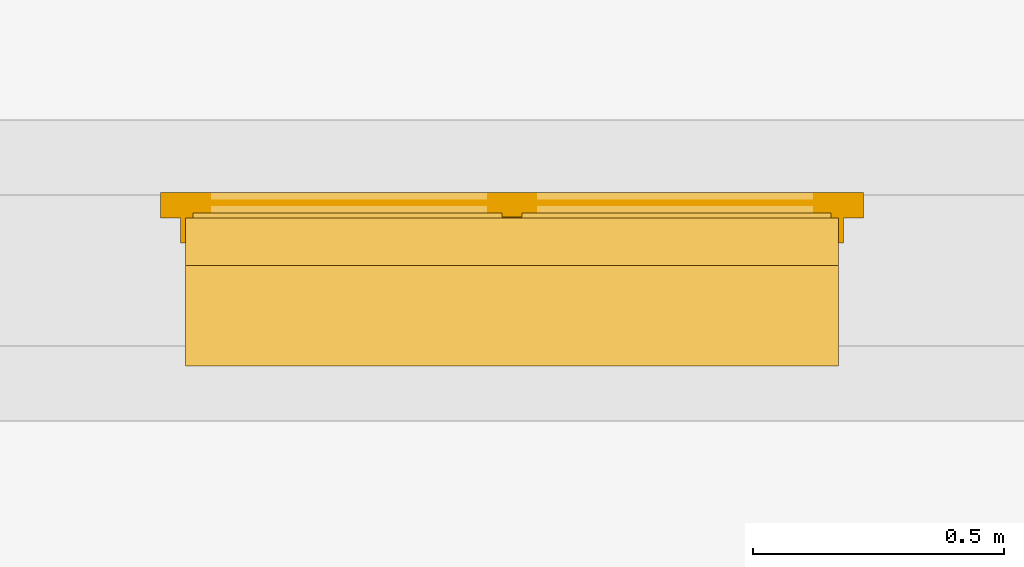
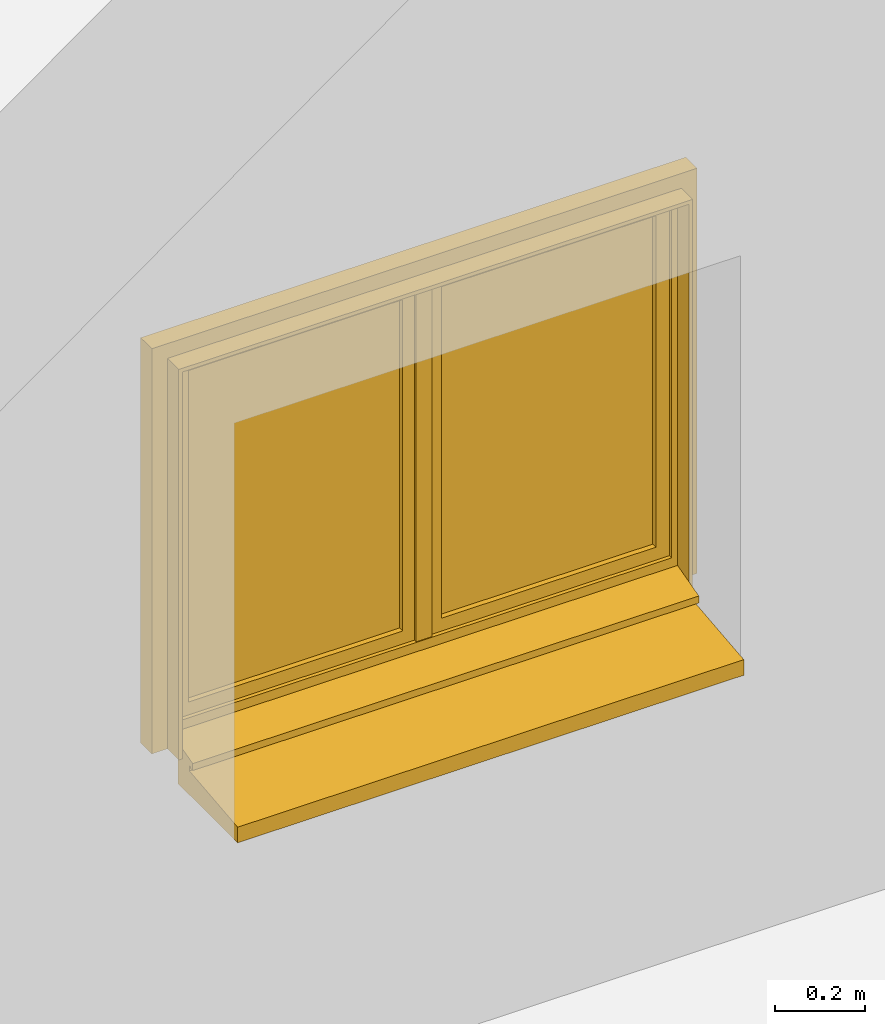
# One storey, part 14 of 20: 1 window.
"""IFC2X3 building model written with IfcOpenShell, lengths in metres."""

from ifc_helpers import new_model, entity, si_unit, converted_unit, derived_unit, direction, frame, origin, place, context, subcontext, project, spatial, faceted_brep, source, transform, mapped, material, material_list, type_object, type_shapes, element, save


model = new_model("IFC2X3")

# Units and contexts
model_context = context("Model", 3, precision=1e-05, world=origin(), true_north=direction((6.12303176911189e-17, 1.0)))
body_context = subcontext(model_context, "Body", "Model", "MODEL_VIEW")
ifc_project = project(units=[si_unit("LENGTHUNIT", "METRE"), si_unit("AREAUNIT", "SQUARE_METRE"), si_unit("VOLUMEUNIT", "CUBIC_METRE"), converted_unit("PLANEANGLEUNIT", "DEGREE", entity("IfcRatioMeasure", 0.0174532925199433), si_unit("PLANEANGLEUNIT", "RADIAN"), dimensions=[0, 0, 0, 0, 0, 0, 0]), si_unit("MASSUNIT", "GRAM", prefix="KILO"), derived_unit("MASSDENSITYUNIT", [(si_unit("MASSUNIT", "GRAM", prefix="KILO"), 1), (si_unit("LENGTHUNIT", "METRE"), -3)]), derived_unit("MOMENTOFINERTIAUNIT", [(si_unit("LENGTHUNIT", "METRE"), 4)]), si_unit("TIMEUNIT", "SECOND"), si_unit("FREQUENCYUNIT", "HERTZ"), si_unit("THERMODYNAMICTEMPERATUREUNIT", "DEGREE_CELSIUS"), derived_unit("THERMALTRANSMITTANCEUNIT", [(si_unit("MASSUNIT", "GRAM", prefix="KILO"), 1), (si_unit("THERMODYNAMICTEMPERATUREUNIT", "KELVIN"), -1), (si_unit("TIMEUNIT", "SECOND"), -3)]), derived_unit("VOLUMETRICFLOWRATEUNIT", [(si_unit("LENGTHUNIT", "METRE"), 3), (si_unit("TIMEUNIT", "SECOND"), -1)]), si_unit("ELECTRICCURRENTUNIT", "AMPERE"), si_unit("ELECTRICVOLTAGEUNIT", "VOLT"), si_unit("POWERUNIT", "WATT"), si_unit("FORCEUNIT", "NEWTON", prefix="KILO"), si_unit("ILLUMINANCEUNIT", "LUX"), si_unit("LUMINOUSFLUXUNIT", "LUMEN"), si_unit("LUMINOUSINTENSITYUNIT", "CANDELA"), derived_unit("USERDEFINED", [(si_unit("MASSUNIT", "GRAM", prefix="KILO"), -1), (si_unit("LENGTHUNIT", "METRE"), -2), (si_unit("TIMEUNIT", "SECOND"), 3), (si_unit("LUMINOUSFLUXUNIT", "LUMEN"), 1)]), derived_unit("LINEARVELOCITYUNIT", [(si_unit("LENGTHUNIT", "METRE"), 1), (si_unit("TIMEUNIT", "SECOND"), -1)]), si_unit("PRESSUREUNIT", "PASCAL"), derived_unit("USERDEFINED", [(si_unit("LENGTHUNIT", "METRE"), -2), (si_unit("MASSUNIT", "GRAM", prefix="KILO"), 1), (si_unit("TIMEUNIT", "SECOND"), -2)]), derived_unit("LINEARFORCEUNIT", [(si_unit("MASSUNIT", "GRAM", prefix="KILO"), 1), (si_unit("LENGTHUNIT", "METRE"), 1), (si_unit("TIMEUNIT", "SECOND"), -2), (si_unit("LENGTHUNIT", "METRE"), -1)]), derived_unit("PLANARFORCEUNIT", [(si_unit("MASSUNIT", "GRAM", prefix="KILO"), 1), (si_unit("LENGTHUNIT", "METRE"), 1), (si_unit("TIMEUNIT", "SECOND"), -2), (si_unit("LENGTHUNIT", "METRE"), -2)])], contexts=[model_context])

# Site, building, storey
site_placement = place(None, origin())
site = spatial("IfcSite", under=ifc_project, at=site_placement, Name="Surface", CompositionType="ELEMENT")
building_placement = place(site_placement, origin())
building = spatial("IfcBuilding", under=site, at=building_placement, CompositionType="ELEMENT")
storey_placement = place(building_placement, origin())
storey = spatial("IfcBuildingStorey", under=building, at=storey_placement, Name="Niveau rdc", CompositionType="ELEMENT", Elevation=-1.94916083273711e-14)

# Window
ifc_material_1 = material(Name="Fenêtre - Poignée")
ifc_material_2 = material(Name="Fenêtre - Appui")
ifc_material_3 = material(Name="Fenêtre - Cadre(1)")
ifc_material_4 = material(Name="Fenêtre - Vitrage")
ifc_material_5 = material(Name="Fenêtre - Cadre")
ifc_material_list_1 = material_list([ifc_material_1, ifc_material_2, ifc_material_3, ifc_material_4, ifc_material_5])
ifc_material_6 = material(Name="Volets - Bois")
ifc_material_list_2 = material_list([ifc_material_6, ifc_material_3, ifc_material_2, ifc_material_5, ifc_material_4, ifc_material_1])
window_style = type_object("IfcWindowStyle", Name="2 Vantaux droits - Volets et petits bois:1.30m x 1.05m - Appui Béton", ConstructionType="NOTDEFINED", OperationType="DOUBLE_PANEL_VERTICAL", ParameterTakesPrecedence=False, Sizeable=False, material=ifc_material_list_2)
shared_shape = source(origin(), body_context, "Body", "Brep", [
    faceted_brep([(0.730646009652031, -0.67100000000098, 0.702033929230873), (0.732033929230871, -0.67100000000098, 0.700646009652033), (0.732033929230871, -0.67100000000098, 0.689332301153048), (0.730667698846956, -0.67100000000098, 0.687966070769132), (0.719332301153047, -0.67100000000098, 0.687966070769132), (0.717966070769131, -0.67100000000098, 0.689332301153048), (0.717966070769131, -0.67100000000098, 0.700646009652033), (0.719353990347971, -0.67100000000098, 0.702033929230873), (0.730646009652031, -0.683913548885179, 0.702033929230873), (0.732033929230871, -0.68333865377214, 0.700646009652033), (0.732033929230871, -0.69664600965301, 0.687338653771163), (0.732033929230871, -0.69664600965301, 0.600000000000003), (0.732033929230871, -0.685332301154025, 0.600000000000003), (0.732033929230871, -0.685332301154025, 0.682652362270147), (0.732033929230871, -0.678652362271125, 0.689332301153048), (0.730667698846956, -0.678086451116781, 0.687966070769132), (0.719332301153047, -0.678086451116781, 0.687966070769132), (0.717966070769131, -0.678652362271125, 0.689332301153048), (0.717966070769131, -0.685332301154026, 0.682652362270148), (0.717966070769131, -0.685332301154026, 0.600000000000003), (0.717966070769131, -0.69664600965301, 0.600000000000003), (0.717966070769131, -0.69664600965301, 0.687338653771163), (0.717966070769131, -0.68333865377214, 0.700646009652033), (0.719353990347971, -0.683913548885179, 0.702033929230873), (0.730646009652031, -0.69803392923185, 0.687913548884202), (0.730667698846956, -0.68396607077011, 0.682086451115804), (0.719332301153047, -0.68396607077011, 0.682086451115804), (0.719353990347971, -0.69803392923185, 0.687913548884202), (0.730646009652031, -0.69803392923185, 0.600000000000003), (0.719353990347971, -0.69803392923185, 0.600000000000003), (0.719332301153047, -0.68396607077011, 0.600000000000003), (0.730667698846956, -0.68396607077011, 0.600000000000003)], [[[0, 1, 2, 3, 4, 5, 6, 7]], [[1, 0, 8, 9]], [[2, 1, 9, 10, 11, 12, 13, 14]], [[3, 2, 14, 15]], [[4, 3, 15, 16]], [[5, 4, 16, 17]], [[6, 5, 17, 18, 19, 20, 21, 22]], [[7, 6, 22, 23]], [[0, 7, 23, 8]], [[9, 8, 24, 10]], [[15, 14, 13, 25]], [[16, 15, 25, 26]], [[17, 16, 26, 18]], [[23, 22, 21, 27]], [[8, 23, 27, 24]], [[28, 29, 20, 19, 30, 31, 12, 11]], [[10, 24, 28, 11]], [[25, 13, 12, 31]], [[26, 25, 31, 30]], [[18, 26, 30, 19]], [[27, 21, 20, 29]], [[24, 27, 29, 28]]]),
    faceted_brep([(0.732000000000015, -0.671000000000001, 0.72), (0.718, -0.671000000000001, 0.72), (0.713, -0.671000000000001, 0.715000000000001), (0.713, -0.671000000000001, 0.644999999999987), (0.717999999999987, -0.671000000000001, 0.639999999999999), (0.732000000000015, -0.671000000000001, 0.639999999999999), (0.737000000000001, -0.671000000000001, 0.644999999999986), (0.737000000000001, -0.671000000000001, 0.715000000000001), (0.732000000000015, -0.665000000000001, 0.72), (0.737000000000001, -0.665000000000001, 0.715000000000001), (0.737000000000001, -0.665000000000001, 0.644999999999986), (0.732000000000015, -0.665000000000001, 0.639999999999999), (0.717999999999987, -0.665000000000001, 0.639999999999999), (0.713, -0.665000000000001, 0.644999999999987), (0.713, -0.665000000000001, 0.715000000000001), (0.718, -0.665000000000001, 0.72)], [[[0, 1, 2, 3, 4, 5, 6, 7]], [[8, 9, 10, 11, 12, 13, 14, 15]], [[1, 0, 8, 15]], [[2, 1, 15, 14]], [[3, 2, 14, 13]], [[4, 3, 13, 12]], [[5, 4, 12, 11]], [[6, 5, 11, 10]], [[7, 6, 10, 9]], [[0, 7, 9, 8]]]),
    faceted_brep([(0.0499999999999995, -0.584999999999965, 0.0799999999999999), (0.0499999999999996, -0.534999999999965, 0.0799999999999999), (0.0499999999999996, -0.534999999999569, 0.0650000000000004), (0.05, -0.319999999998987, 0.0424025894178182), (0.05, -0.319999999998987, 0.0), (0.0499999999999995, -0.584999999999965, 0.0), (1.35, -0.584999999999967, 0.0799999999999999), (1.35, -0.584999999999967, 0.0), (1.35, -0.319999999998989, 0.0), (1.35, -0.319999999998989, 0.0424025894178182), (1.35, -0.534999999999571, 0.0650000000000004), (1.35, -0.534999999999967, 0.0799999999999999)], [[[0, 1, 2, 3, 4, 5]], [[6, 7, 8, 9, 10, 11]], [[1, 0, 6, 11]], [[2, 1, 11, 10]], [[3, 2, 10, 9]], [[4, 3, 9, 8]], [[5, 4, 8, 7]], [[0, 5, 7, 6]]]),
    faceted_brep([(0.699999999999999, -0.624999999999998, 1.13), (0.699999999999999, -0.66499999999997, 1.13), (0.699999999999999, -0.664999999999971, 0.13), (0.699999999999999, -0.624999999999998, 0.13), (0.0499999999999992, -0.664999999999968, 0.13), (0.0499999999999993, -0.624999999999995, 0.13), (0.0499999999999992, -0.664999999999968, 1.13), (0.0999999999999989, -0.664999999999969, 0.18), (0.0999999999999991, -0.664999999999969, 1.08), (0.649999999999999, -0.66499999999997, 1.08), (0.649999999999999, -0.66499999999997, 0.18), (0.0499999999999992, -0.624999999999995, 1.13), (0.649999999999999, -0.624999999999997, 0.18), (0.649999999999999, -0.624999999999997, 1.08), (0.0999999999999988, -0.624999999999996, 1.08), (0.0999999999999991, -0.624999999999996, 0.18)], [[[0, 1, 2, 3]], [[3, 2, 4, 5]], [[2, 1, 6, 4], [7, 8, 9, 10]], [[5, 4, 6, 11]], [[5, 11, 0, 3], [12, 13, 14, 15]], [[9, 13, 12, 10]], [[10, 12, 15, 7]], [[7, 15, 14, 8]], [[11, 6, 1, 0]], [[8, 14, 13, 9]]]),
    faceted_brep([(0.749999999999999, -0.639000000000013, 0.18), (0.749999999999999, -0.639000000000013, 1.08), (1.3, -0.639000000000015, 1.08), (1.3, -0.639000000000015, 0.18), (0.749999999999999, -0.651000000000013, 0.18), (0.749999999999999, -0.651000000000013, 1.08), (1.3, -0.651000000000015, 1.08), (1.3, -0.651000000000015, 0.18)], [[[0, 1, 2, 3]], [[1, 0, 4, 5]], [[3, 2, 6, 7]], [[0, 3, 7, 4]], [[2, 1, 5, 6]], [[4, 7, 6, 5]]]),
    faceted_brep([(0.65, -0.639000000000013, 0.18), (0.649999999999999, -0.639000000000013, 1.08), (0.649999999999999, -0.651000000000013, 1.08), (0.649999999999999, -0.651000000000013, 0.18), (0.0999999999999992, -0.639000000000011, 0.18), (0.0999999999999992, -0.651000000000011, 0.18), (0.0999999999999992, -0.639000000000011, 1.08), (0.0999999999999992, -0.651000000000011, 1.08)], [[[0, 1, 2, 3]], [[4, 0, 3, 5]], [[6, 4, 5, 7]], [[7, 5, 3, 2]], [[1, 6, 7, 2]], [[6, 1, 0, 4]]]),
    faceted_brep([(0.75, -0.625000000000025, 1.08), (0.75, -0.665000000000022, 1.08), (0.749999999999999, -0.665000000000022, 0.18), (0.75, -0.625000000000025, 0.18), (1.3, -0.665000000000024, 0.18), (1.3, -0.625000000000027, 0.18), (1.3, -0.665000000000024, 1.08), (1.35, -0.665000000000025, 0.130000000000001), (1.35, -0.665000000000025, 1.13), (0.7, -0.665000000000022, 1.13), (0.7, -0.665000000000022, 0.130000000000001), (1.3, -0.625000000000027, 1.08), (0.7, -0.625000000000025, 0.130000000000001), (0.7, -0.625000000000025, 1.13), (1.35, -0.625000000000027, 1.13), (1.35, -0.625000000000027, 0.130000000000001)], [[[0, 1, 2, 3]], [[3, 2, 4, 5]], [[2, 1, 6, 4], [7, 8, 9, 10]], [[5, 4, 6, 11]], [[5, 11, 0, 3], [12, 13, 14, 15]], [[9, 13, 12, 10]], [[10, 12, 15, 7]], [[7, 15, 14, 8]], [[11, 6, 1, 0]], [[8, 14, 13, 9]]], outer=[[True], [True], [False, True], [True], [False, True], [True], [True], [True], [True], [True]]),
    faceted_brep([(0.0, -0.665000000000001, 0.0799999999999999), (0.0, -0.615000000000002, 0.0799999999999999), (0.0499999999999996, -0.615000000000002, 0.0799999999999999), (0.0499999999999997, -0.530000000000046, 0.0799999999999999), (1.35, -0.530000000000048, 0.0800000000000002), (1.35, -0.615000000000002, 0.0799999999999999), (1.4, -0.615000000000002, 0.0799999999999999), (1.4, -0.665000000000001, 0.0799999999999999), (0.0, -0.665000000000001, 1.18), (0.0, -0.615000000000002, 1.18), (1.4, -0.615000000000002, 1.18), (1.35, -0.615000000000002, 0.119376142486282), (0.0499999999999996, -0.615000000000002, 0.119376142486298), (0.0649999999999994, -0.615000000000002, 1.115), (0.0649999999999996, -0.615000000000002, 0.145), (1.335, -0.615000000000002, 0.145), (1.335, -0.615000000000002, 1.115), (0.0499999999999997, -0.520000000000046, 0.0939209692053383), (0.0499999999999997, -0.520000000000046, 0.0749999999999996), (0.0499999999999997, -0.530000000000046, 0.0749999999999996), (1.35, -0.530000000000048, 0.0749999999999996), (1.35, -0.520000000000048, 0.0749999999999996), (1.35, -0.520000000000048, 0.0939209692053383), (1.4, -0.665000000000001, 1.18), (1.35, -0.665000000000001, 1.13), (1.35, -0.665000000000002, 0.13), (0.0499999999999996, -0.665000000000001, 0.13), (0.0499999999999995, -0.665000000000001, 1.13), (0.0649999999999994, -0.625000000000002, 1.115), (0.0649999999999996, -0.625000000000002, 0.145), (1.335, -0.625000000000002, 0.145), (1.335, -0.625000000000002, 1.115), (1.35, -0.625000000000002, 1.13), (0.0499999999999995, -0.625000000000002, 1.13), (0.0499999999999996, -0.625000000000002, 0.13), (1.35, -0.625000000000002, 0.13)], [[[0, 1, 2, 3, 4, 5, 6, 7]], [[1, 0, 8, 9]], [[1, 9, 10, 6, 5, 11, 12, 2], [13, 14, 15, 16]], [[12, 17, 18, 19, 3, 2]], [[3, 19, 20, 4]], [[4, 20, 21, 22, 11, 5]], [[6, 10, 23, 7]], [[0, 7, 23, 8], [24, 25, 26, 27]], [[13, 28, 29, 14]], [[29, 30, 15, 14]], [[31, 16, 15, 30]], [[17, 12, 11, 22]], [[32, 33, 34, 35], [28, 31, 30, 29]], [[34, 33, 27, 26]], [[26, 25, 35, 34]], [[24, 32, 35, 25]], [[18, 17, 22, 21]], [[19, 18, 21, 20]], [[13, 16, 31, 28]], [[33, 32, 24, 27]], [[10, 9, 8, 23]]]),
    faceted_brep([(0.0499999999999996, -0.565, 0.0799999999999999), (0.0499999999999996, -0.615000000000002, 0.0799999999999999), (0.0399999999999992, -0.615000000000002, 0.0799999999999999), (0.0399999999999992, -0.565, 0.0799999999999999), (0.0499999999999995, -0.565, 1.13), (0.0499999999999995, -0.615000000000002, 1.13), (1.35, -0.615000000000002, 1.13), (1.35, -0.615000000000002, 0.0799999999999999), (1.36, -0.615000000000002, 0.0799999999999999), (1.36, -0.615000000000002, 1.14), (0.0399999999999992, -0.615000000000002, 1.14), (0.0399999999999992, -0.565, 1.14), (1.36, -0.565, 1.14), (1.36, -0.565, 0.0799999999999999), (1.35, -0.565, 0.0799999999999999), (1.35, -0.565, 1.13)], [[[0, 1, 2, 3]], [[1, 0, 4, 5]], [[2, 1, 5, 6, 7, 8, 9, 10]], [[3, 2, 10, 11]], [[0, 3, 11, 12, 13, 14, 15, 4]], [[6, 15, 14, 7]], [[14, 13, 8, 7]], [[12, 9, 8, 13]], [[5, 4, 15, 6]], [[11, 10, 9, 12]]]),
    faceted_brep([(0.72, -0.617000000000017, 1.115), (0.679999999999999, -0.617000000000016, 1.115), (0.679999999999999, -0.625000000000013, 1.115), (0.719999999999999, -0.625000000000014, 1.115), (0.72, -0.617000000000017, 0.145), (0.719999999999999, -0.625000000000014, 0.145), (0.679999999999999, -0.625000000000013, 0.145), (0.679999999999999, -0.617000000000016, 0.145)], [[[0, 1, 2, 3]], [[4, 5, 6, 7]], [[1, 0, 4, 7]], [[2, 1, 7, 6]], [[3, 2, 6, 5]], [[0, 3, 5, 4]]]),
])
type_shapes(window_style, [shared_shape])
window_placement = place(storey_placement, frame((11.0393960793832, -1.09074189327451, 0.72), z_axis=(0.0, 0.0, 1.0), x_axis=(-1.0, 0.0, 0.0)))
element("IfcWindow", 1, at=window_placement, inside=storey, type_object=window_style, material=ifc_material_list_1, Name="2 Vantaux droits - Volets et petits bois:1.30m x 1.05m - Appui Béton", ObjectType="2 Vantaux droits - Volets et petits bois:1.30m x 1.05m - Appui Béton", OverallHeight=1.18, OverallWidth=1.4, context=body_context, shape_type="MappedRepresentation", body=[
    mapped(shared_shape, transform((0.0, 0.0, 0.0), scale=1.0)),
])

save(model, "model.ifc")
